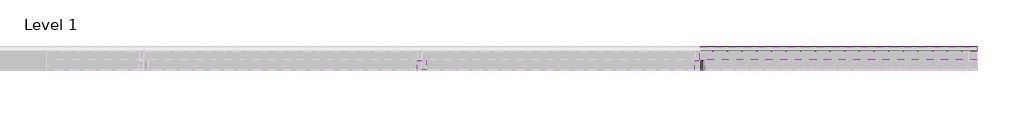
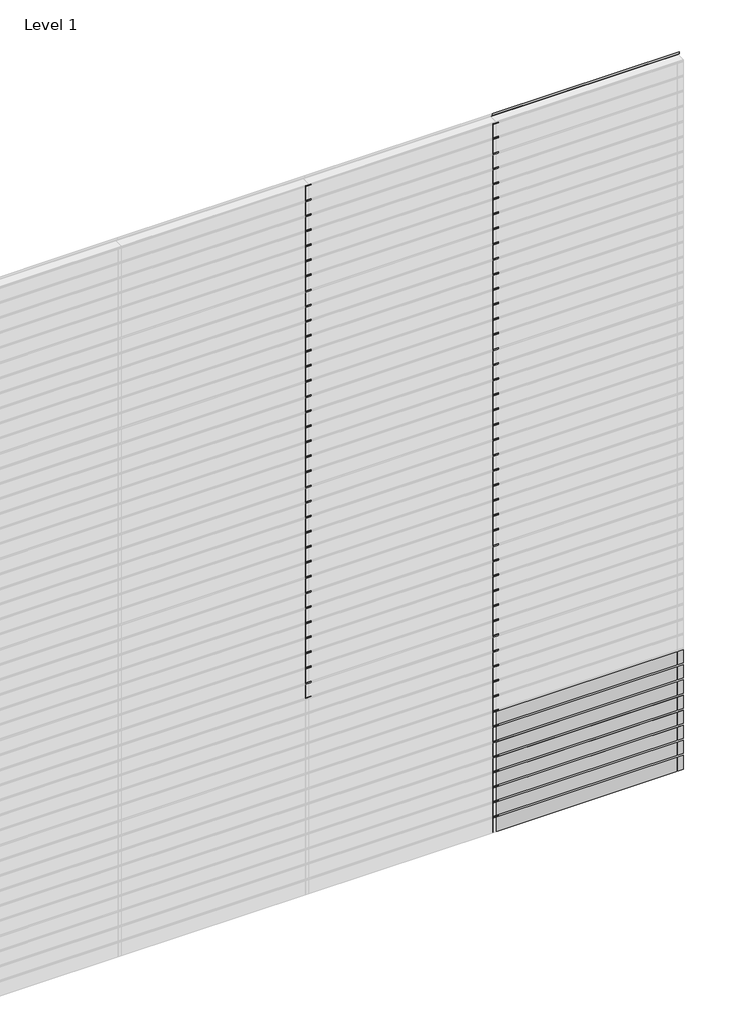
# One storey, part 5 of 6: 128 members, 8 plates.
"""IFC4 building model written with IfcOpenShell, lengths in millimetres."""

from ifc_helpers import new_model, si_unit, origin, place, context, project, spatial, transform, mapped, element, save
from components import rectangular_mullion_0894c78b, rectangular_mullion_172e3795, empty_system_panel_empty_e0da4f88, empty_system_panel_empty_a47fb649

model = new_model("IFC4")

# Units and contexts
model_context = context("Model", 3, world=origin())
ifc_project = project(units=[si_unit("LENGTHUNIT", "METRE", prefix="MILLI")], contexts=[model_context])

# Site, building, storey
site = spatial("IfcSite", under=ifc_project)
building = spatial("IfcBuilding", under=site)
storey = spatial("IfcBuildingStorey", under=building, Name="Level 1", Elevation=0.0)

# Members
placement = place(None, origin())
rectangular_mullion_shape = rectangular_mullion_0894c78b(model_context)
element("IfcMember", 1, ObjectType="Rectangular Mullion : RSen_21_CWM_blade - 100 C_gen_duco projects", at=placement, inside=storey, context=model_context, shape_type="MappedRepresentation", body=[
    mapped(rectangular_mullion_shape, transform((4500.0, 3000.0, 127.5), x_axis=(0.0, 0.0, 1.0), y_axis=(0.0, 1.0, 0.0), z_axis=(-1.0, 0.0, 0.0))),
])
element("IfcMember", 2, ObjectType="Rectangular Mullion : RSen_21_CWM_blade - 100 C_gen_duco projects", at=placement, inside=storey, context=model_context, shape_type="MappedRepresentation", body=[
    mapped(rectangular_mullion_shape, transform((4500.0, 3000.0, 255.0), x_axis=(0.0, 0.0, 1.0), y_axis=(0.0, 1.0, 0.0), z_axis=(-1.0, 0.0, 0.0))),
])
element("IfcMember", 3, ObjectType="Rectangular Mullion : RSen_21_CWM_blade - 100 C_gen_duco projects", at=placement, inside=storey, context=model_context, shape_type="MappedRepresentation", body=[
    mapped(rectangular_mullion_shape, transform((4500.0, 3000.0, 382.5), x_axis=(0.0, 0.0, 1.0), y_axis=(0.0, 1.0, 0.0), z_axis=(-1.0, 0.0, 0.0))),
])
element("IfcMember", 4, ObjectType="Rectangular Mullion : RSen_21_CWM_blade - 100 C_gen_duco projects", at=placement, inside=storey, context=model_context, shape_type="MappedRepresentation", body=[
    mapped(rectangular_mullion_shape, transform((4500.0, 3000.0, 510.0), x_axis=(0.0, 0.0, 1.0), y_axis=(0.0, 1.0, 0.0), z_axis=(-1.0, 0.0, 0.0))),
])
element("IfcMember", 5, ObjectType="Rectangular Mullion : RSen_21_CWM_blade - 100 C_gen_duco projects", at=placement, inside=storey, context=model_context, shape_type="MappedRepresentation", body=[
    mapped(rectangular_mullion_shape, transform((4500.0, 3000.0, 637.5), x_axis=(0.0, 0.0, 1.0), y_axis=(0.0, 1.0, 0.0), z_axis=(-1.0, 0.0, 0.0))),
])
element("IfcMember", 6, ObjectType="Rectangular Mullion : RSen_21_CWM_blade - 100 C_gen_duco projects", at=placement, inside=storey, context=model_context, shape_type="MappedRepresentation", body=[
    mapped(rectangular_mullion_shape, transform((4500.0, 3000.0, 765.0), x_axis=(0.0, 0.0, 1.0), y_axis=(0.0, 1.0, 0.0), z_axis=(-1.0, 0.0, 0.0))),
])
element("IfcMember", 7, ObjectType="Rectangular Mullion : RSen_21_CWM_blade - 100 C_gen_duco projects", at=placement, inside=storey, context=model_context, shape_type="MappedRepresentation", body=[
    mapped(rectangular_mullion_shape, transform((4500.0, 3000.0, 892.5), x_axis=(0.0, 0.0, 1.0), y_axis=(0.0, 1.0, 0.0), z_axis=(-1.0, 0.0, 0.0))),
])
element("IfcMember", 8, ObjectType="Rectangular Mullion : RSen_21_CWM_blade - 100 C_gen_duco projects", at=placement, inside=storey, context=model_context, shape_type="MappedRepresentation", body=[
    mapped(rectangular_mullion_shape, transform((4500.0, 3000.0, 1020.0), x_axis=(0.0, 0.0, 1.0), y_axis=(0.0, 1.0, 0.0), z_axis=(-1.0, 0.0, 0.0))),
])
element("IfcMember", 9, ObjectType="Rectangular Mullion : RSen_21_CWM_blade - 100 C_gen_duco projects", at=placement, inside=storey, context=model_context, shape_type="MappedRepresentation", body=[
    mapped(rectangular_mullion_shape, transform((4500.0, 3000.0, 1147.5), x_axis=(0.0, 0.0, 1.0), y_axis=(0.0, 1.0, 0.0), z_axis=(-1.0, 0.0, 0.0))),
])
element("IfcMember", 10, ObjectType="Rectangular Mullion : RSen_21_CWM_blade - 100 C_gen_duco projects", at=placement, inside=storey, context=model_context, shape_type="MappedRepresentation", body=[
    mapped(rectangular_mullion_shape, transform((4500.0, 3000.0, 1275.0), x_axis=(0.0, 0.0, 1.0), y_axis=(0.0, 1.0, 0.0), z_axis=(-1.0, 0.0, 0.0))),
])
element("IfcMember", 11, ObjectType="Rectangular Mullion : RSen_21_CWM_blade - 100 C_gen_duco projects", at=placement, inside=storey, context=model_context, shape_type="MappedRepresentation", body=[
    mapped(rectangular_mullion_shape, transform((4500.0, 3000.0, 1402.5), x_axis=(0.0, 0.0, 1.0), y_axis=(0.0, 1.0, 0.0), z_axis=(-1.0, 0.0, 0.0))),
])
element("IfcMember", 12, ObjectType="Rectangular Mullion : RSen_21_CWM_blade - 100 C_gen_duco projects", at=placement, inside=storey, context=model_context, shape_type="MappedRepresentation", body=[
    mapped(rectangular_mullion_shape, transform((4500.0, 3000.0, 1530.0), x_axis=(0.0, 0.0, 1.0), y_axis=(0.0, 1.0, 0.0), z_axis=(-1.0, 0.0, 0.0))),
])
element("IfcMember", 13, ObjectType="Rectangular Mullion : RSen_21_CWM_blade - 100 C_gen_duco projects", at=placement, inside=storey, context=model_context, shape_type="MappedRepresentation", body=[
    mapped(rectangular_mullion_shape, transform((4500.0, 3000.0, 1657.5), x_axis=(0.0, 0.0, 1.0), y_axis=(0.0, 1.0, 0.0), z_axis=(-1.0, 0.0, 0.0))),
])
element("IfcMember", 14, ObjectType="Rectangular Mullion : RSen_21_CWM_blade - 100 C_gen_duco projects", at=placement, inside=storey, context=model_context, shape_type="MappedRepresentation", body=[
    mapped(rectangular_mullion_shape, transform((4500.0, 3000.0, 1785.0), x_axis=(0.0, 0.0, 1.0), y_axis=(0.0, 1.0, 0.0), z_axis=(-1.0, 0.0, 0.0))),
])
element("IfcMember", 15, ObjectType="Rectangular Mullion : RSen_21_CWM_blade - 100 C_gen_duco projects", at=placement, inside=storey, context=model_context, shape_type="MappedRepresentation", body=[
    mapped(rectangular_mullion_shape, transform((4500.0, 3000.0, 1912.5), x_axis=(0.0, 0.0, 1.0), y_axis=(0.0, 1.0, 0.0), z_axis=(-1.0, 0.0, 0.0))),
])
element("IfcMember", 16, ObjectType="Rectangular Mullion : RSen_21_CWM_blade - 100 C_gen_duco projects", at=placement, inside=storey, context=model_context, shape_type="MappedRepresentation", body=[
    mapped(rectangular_mullion_shape, transform((4500.0, 3000.0, 2040.0), x_axis=(0.0, 0.0, 1.0), y_axis=(0.0, 1.0, 0.0), z_axis=(-1.0, 0.0, 0.0))),
])
element("IfcMember", 17, ObjectType="Rectangular Mullion : RSen_21_CWM_blade - 100 C_gen_duco projects", at=placement, inside=storey, context=model_context, shape_type="MappedRepresentation", body=[
    mapped(rectangular_mullion_shape, transform((4500.0, 3000.0, 2167.5), x_axis=(0.0, 0.0, 1.0), y_axis=(0.0, 1.0, 0.0), z_axis=(-1.0, 0.0, 0.0))),
])
element("IfcMember", 18, ObjectType="Rectangular Mullion : RSen_21_CWM_blade - 100 C_gen_duco projects", at=placement, inside=storey, context=model_context, shape_type="MappedRepresentation", body=[
    mapped(rectangular_mullion_shape, transform((4500.0, 3000.0, 2295.0), x_axis=(0.0, 0.0, 1.0), y_axis=(0.0, 1.0, 0.0), z_axis=(-1.0, 0.0, 0.0))),
])
element("IfcMember", 19, ObjectType="Rectangular Mullion : RSen_21_CWM_blade - 100 C_gen_duco projects", at=placement, inside=storey, context=model_context, shape_type="MappedRepresentation", body=[
    mapped(rectangular_mullion_shape, transform((4500.0, 3000.0, 2422.5), x_axis=(0.0, 0.0, 1.0), y_axis=(0.0, 1.0, 0.0), z_axis=(-1.0, 0.0, 0.0))),
])
element("IfcMember", 20, ObjectType="Rectangular Mullion : RSen_21_CWM_blade - 100 C_gen_duco projects", at=placement, inside=storey, context=model_context, shape_type="MappedRepresentation", body=[
    mapped(rectangular_mullion_shape, transform((4500.0, 3000.0, 2550.0), x_axis=(0.0, 0.0, 1.0), y_axis=(0.0, 1.0, 0.0), z_axis=(-1.0, 0.0, 0.0))),
])
element("IfcMember", 21, ObjectType="Rectangular Mullion : RSen_21_CWM_blade - 100 C_gen_duco projects", at=placement, inside=storey, context=model_context, shape_type="MappedRepresentation", body=[
    mapped(rectangular_mullion_shape, transform((4500.0, 3000.0, 2677.5), x_axis=(0.0, 0.0, 1.0), y_axis=(0.0, 1.0, 0.0), z_axis=(-1.0, 0.0, 0.0))),
])
element("IfcMember", 22, ObjectType="Rectangular Mullion : RSen_21_CWM_blade - 100 C_gen_duco projects", at=placement, inside=storey, context=model_context, shape_type="MappedRepresentation", body=[
    mapped(rectangular_mullion_shape, transform((4500.0, 3000.0, 2805.0), x_axis=(0.0, 0.0, 1.0), y_axis=(0.0, 1.0, 0.0), z_axis=(-1.0, 0.0, 0.0))),
])
element("IfcMember", 23, ObjectType="Rectangular Mullion : RSen_21_CWM_blade - 100 C_gen_duco projects", at=placement, inside=storey, context=model_context, shape_type="MappedRepresentation", body=[
    mapped(rectangular_mullion_shape, transform((4500.0, 3000.0, 2932.5), x_axis=(0.0, 0.0, 1.0), y_axis=(0.0, 1.0, 0.0), z_axis=(-1.0, 0.0, 0.0))),
])
element("IfcMember", 24, ObjectType="Rectangular Mullion : RSen_21_CWM_blade - 100 C_gen_duco projects", at=placement, inside=storey, context=model_context, shape_type="MappedRepresentation", body=[
    mapped(rectangular_mullion_shape, transform((4500.0, 3000.0, 3060.0), x_axis=(0.0, 0.0, 1.0), y_axis=(0.0, 1.0, 0.0), z_axis=(-1.0, 0.0, 0.0))),
])
element("IfcMember", 25, ObjectType="Rectangular Mullion : RSen_21_CWM_blade - 100 C_gen_duco projects", at=placement, inside=storey, context=model_context, shape_type="MappedRepresentation", body=[
    mapped(rectangular_mullion_shape, transform((4500.0, 3000.0, 3187.5), x_axis=(0.0, 0.0, 1.0), y_axis=(0.0, 1.0, 0.0), z_axis=(-1.0, 0.0, 0.0))),
])
element("IfcMember", 26, ObjectType="Rectangular Mullion : RSen_21_CWM_blade - 100 C_gen_duco projects", at=placement, inside=storey, context=model_context, shape_type="MappedRepresentation", body=[
    mapped(rectangular_mullion_shape, transform((4500.0, 3000.0, 3315.0), x_axis=(0.0, 0.0, 1.0), y_axis=(0.0, 1.0, 0.0), z_axis=(-1.0, 0.0, 0.0))),
])
element("IfcMember", 27, ObjectType="Rectangular Mullion : RSen_21_CWM_blade - 100 C_gen_duco projects", at=placement, inside=storey, context=model_context, shape_type="MappedRepresentation", body=[
    mapped(rectangular_mullion_shape, transform((4500.0, 3000.0, 3442.5), x_axis=(0.0, 0.0, 1.0), y_axis=(0.0, 1.0, 0.0), z_axis=(-1.0, 0.0, 0.0))),
])
element("IfcMember", 28, ObjectType="Rectangular Mullion : RSen_21_CWM_blade - 100 C_gen_duco projects", at=placement, inside=storey, context=model_context, shape_type="MappedRepresentation", body=[
    mapped(rectangular_mullion_shape, transform((4500.0, 3000.0, 3570.0), x_axis=(0.0, 0.0, 1.0), y_axis=(0.0, 1.0, 0.0), z_axis=(-1.0, 0.0, 0.0))),
])
element("IfcMember", 29, ObjectType="Rectangular Mullion : RSen_21_CWM_blade - 100 C_gen_duco projects", at=placement, inside=storey, context=model_context, shape_type="MappedRepresentation", body=[
    mapped(rectangular_mullion_shape, transform((4500.0, 3000.0, 3697.5), x_axis=(0.0, 0.0, 1.0), y_axis=(0.0, 1.0, 0.0), z_axis=(-1.0, 0.0, 0.0))),
])
element("IfcMember", 30, ObjectType="Rectangular Mullion : RSen_21_CWM_blade - 100 C_gen_duco projects", at=placement, inside=storey, context=model_context, shape_type="MappedRepresentation", body=[
    mapped(rectangular_mullion_shape, transform((4500.0, 3000.0, 3825.0), x_axis=(0.0, 0.0, 1.0), y_axis=(0.0, 1.0, 0.0), z_axis=(-1.0, 0.0, 0.0))),
])
element("IfcMember", 31, ObjectType="Rectangular Mullion : RSen_21_CWM_blade - 100 C_gen_duco projects", at=placement, inside=storey, context=model_context, shape_type="MappedRepresentation", body=[
    mapped(rectangular_mullion_shape, transform((4500.0, 3000.0, 3952.5), x_axis=(0.0, 0.0, 1.0), y_axis=(0.0, 1.0, 0.0), z_axis=(-1.0, 0.0, 0.0))),
])
element("IfcMember", 32, ObjectType="Rectangular Mullion : RSen_21_CWM_blade - 100 C_gen_duco projects", at=placement, inside=storey, context=model_context, shape_type="MappedRepresentation", body=[
    mapped(rectangular_mullion_shape, transform((4500.0, 3000.0, 4080.0), x_axis=(0.0, 0.0, 1.0), y_axis=(0.0, 1.0, 0.0), z_axis=(-1.0, 0.0, 0.0))),
])
element("IfcMember", 33, ObjectType="Rectangular Mullion : RSen_21_CWM_blade - 100 C_gen_duco projects", at=placement, inside=storey, context=model_context, shape_type="MappedRepresentation", body=[
    mapped(rectangular_mullion_shape, transform((4500.0, 3000.0, 4207.5), x_axis=(0.0, 0.0, 1.0), y_axis=(0.0, 1.0, 0.0), z_axis=(-1.0, 0.0, 0.0))),
])
element("IfcMember", 34, ObjectType="Rectangular Mullion : RSen_21_CWM_blade - 100 C_gen_duco projects", at=placement, inside=storey, context=model_context, shape_type="MappedRepresentation", body=[
    mapped(rectangular_mullion_shape, transform((4500.0, 3000.0, 4335.0), x_axis=(0.0, 0.0, 1.0), y_axis=(0.0, 1.0, 0.0), z_axis=(-1.0, 0.0, 0.0))),
])
element("IfcMember", 35, ObjectType="Rectangular Mullion : RSen_21_CWM_blade - 100 C_gen_duco projects", at=placement, inside=storey, context=model_context, shape_type="MappedRepresentation", body=[
    mapped(rectangular_mullion_shape, transform((4500.0, 3000.0, 4462.5), x_axis=(0.0, 0.0, 1.0), y_axis=(0.0, 1.0, 0.0), z_axis=(-1.0, 0.0, 0.0))),
])
element("IfcMember", 36, ObjectType="Rectangular Mullion : RSen_21_CWM_blade - 100 C_gen_duco projects", at=placement, inside=storey, context=model_context, shape_type="MappedRepresentation", body=[
    mapped(rectangular_mullion_shape, transform((4500.0, 3000.0, 4590.0), x_axis=(0.0, 0.0, 1.0), y_axis=(0.0, 1.0, 0.0), z_axis=(-1.0, 0.0, 0.0))),
])
element("IfcMember", 37, ObjectType="Rectangular Mullion : RSen_21_CWM_blade - 100 C_gen_duco projects", at=placement, inside=storey, context=model_context, shape_type="MappedRepresentation", body=[
    mapped(rectangular_mullion_shape, transform((4500.0, 3000.0, 4717.5), x_axis=(0.0, 0.0, 1.0), y_axis=(0.0, 1.0, 0.0), z_axis=(-1.0, 0.0, 0.0))),
])
element("IfcMember", 38, ObjectType="Rectangular Mullion : RSen_21_CWM_blade - 100 C_gen_duco projects", at=placement, inside=storey, context=model_context, shape_type="MappedRepresentation", body=[
    mapped(rectangular_mullion_shape, transform((4500.0, 3000.0, 4845.0), x_axis=(0.0, 0.0, 1.0), y_axis=(0.0, 1.0, 0.0), z_axis=(-1.0, 0.0, 0.0))),
])
element("IfcMember", 39, ObjectType="Rectangular Mullion : RSen_21_CWM_blade - 100 C_gen_duco projects", at=placement, inside=storey, context=model_context, shape_type="MappedRepresentation", body=[
    mapped(rectangular_mullion_shape, transform((4500.0, 3000.0, 4972.5), x_axis=(0.0, 0.0, 1.0), y_axis=(0.0, 1.0, 0.0), z_axis=(-1.0, 0.0, 0.0))),
])
element("IfcMember", 40, ObjectType="Rectangular Mullion : RSen_21_CWM_blade - 100 C_gen_duco projects", at=placement, inside=storey, context=model_context, shape_type="MappedRepresentation", body=[
    mapped(rectangular_mullion_shape, transform((4500.0, 3000.0, 5100.0), x_axis=(0.0, 0.0, 1.0), y_axis=(0.0, 1.0, 0.0), z_axis=(-1.0, 0.0, 0.0))),
])
element("IfcMember", 41, ObjectType="Rectangular Mullion : RSen_21_CWM_blade - 100 C_gen_duco projects", at=placement, inside=storey, context=model_context, shape_type="MappedRepresentation", body=[
    mapped(rectangular_mullion_shape, transform((4500.0, 3000.0, 5227.5), x_axis=(0.0, 0.0, 1.0), y_axis=(0.0, 1.0, 0.0), z_axis=(-1.0, 0.0, 0.0))),
])
element("IfcMember", 42, ObjectType="Rectangular Mullion : RSen_21_CWM_blade - 100 C_gen_duco projects", at=placement, inside=storey, context=model_context, shape_type="MappedRepresentation", body=[
    mapped(rectangular_mullion_shape, transform((4500.0, 3000.0, 5355.0), x_axis=(0.0, 0.0, 1.0), y_axis=(0.0, 1.0, 0.0), z_axis=(-1.0, 0.0, 0.0))),
])
element("IfcMember", 43, ObjectType="Rectangular Mullion : RSen_21_CWM_blade - 100 C_gen_duco projects", at=placement, inside=storey, context=model_context, shape_type="MappedRepresentation", body=[
    mapped(rectangular_mullion_shape, transform((4500.0, 3000.0, 5482.5), x_axis=(0.0, 0.0, 1.0), y_axis=(0.0, 1.0, 0.0), z_axis=(-1.0, 0.0, 0.0))),
])
element("IfcMember", 44, ObjectType="Rectangular Mullion : RSen_21_CWM_blade - 100 C_gen_duco projects", at=placement, inside=storey, context=model_context, shape_type="MappedRepresentation", body=[
    mapped(rectangular_mullion_shape, transform((4500.0, 3000.0, 5610.0), x_axis=(0.0, 0.0, 1.0), y_axis=(0.0, 1.0, 0.0), z_axis=(-1.0, 0.0, 0.0))),
])
element("IfcMember", 45, ObjectType="Rectangular Mullion : RSen_21_CWM_blade - 100 C_gen_duco projects", at=placement, inside=storey, context=model_context, shape_type="MappedRepresentation", body=[
    mapped(rectangular_mullion_shape, transform((4500.0, 3000.0, 5737.5), x_axis=(0.0, 0.0, 1.0), y_axis=(0.0, 1.0, 0.0), z_axis=(-1.0, 0.0, 0.0))),
])
element("IfcMember", 46, ObjectType="Rectangular Mullion : RSen_21_CWM_blade - 100 C_gen_duco projects", at=placement, inside=storey, context=model_context, shape_type="MappedRepresentation", body=[
    mapped(rectangular_mullion_shape, transform((4500.0, 3000.0, 5865.0), x_axis=(0.0, 0.0, 1.0), y_axis=(0.0, 1.0, 0.0), z_axis=(-1.0, 0.0, 0.0))),
])
element("IfcMember", 47, ObjectType="Rectangular Mullion : RSen_21_CWM_blade - 100 C_gen_duco projects", at=placement, inside=storey, context=model_context, shape_type="MappedRepresentation", body=[
    mapped(rectangular_mullion_shape, transform((4500.0, 3000.0, 5992.5), x_axis=(0.0, 0.0, 1.0), y_axis=(0.0, 1.0, 0.0), z_axis=(-1.0, 0.0, 0.0))),
])
rectangular_mullion_2_shape = rectangular_mullion_172e3795(model_context)
element("IfcMember", 48, ObjectType="Rectangular Mullion : RSen_21_CWM_support profile 50x50_gen_duco projects", at=placement, inside=storey, context=model_context, shape_type="MappedRepresentation", body=[
    mapped(rectangular_mullion_2_shape, transform((4500.0, 3000.0, 0.0), x_axis=(-1.0, 0.0, 0.0), y_axis=(0.0, 1.0, 0.0), z_axis=(0.0, 0.0, -1.0))),
])
element("IfcMember", 49, ObjectType="Rectangular Mullion : RSen_21_CWM_support profile 50x50_gen_duco projects", at=placement, inside=storey, context=model_context, shape_type="MappedRepresentation", body=[
    mapped(rectangular_mullion_2_shape, transform((4500.0, 3000.0, 127.5), x_axis=(-1.0, 0.0, 0.0), y_axis=(0.0, 1.0, 0.0), z_axis=(0.0, 0.0, -1.0))),
])
element("IfcMember", 50, ObjectType="Rectangular Mullion : RSen_21_CWM_support profile 50x50_gen_duco projects", at=placement, inside=storey, context=model_context, shape_type="MappedRepresentation", body=[
    mapped(rectangular_mullion_2_shape, transform((4500.0, 3000.0, 255.0), x_axis=(-1.0, 0.0, 0.0), y_axis=(0.0, 1.0, 0.0), z_axis=(0.0, 0.0, -1.0))),
])
element("IfcMember", 51, ObjectType="Rectangular Mullion : RSen_21_CWM_support profile 50x50_gen_duco projects", at=placement, inside=storey, context=model_context, shape_type="MappedRepresentation", body=[
    mapped(rectangular_mullion_2_shape, transform((4500.0, 3000.0, 382.5), x_axis=(-1.0, 0.0, 0.0), y_axis=(0.0, 1.0, 0.0), z_axis=(0.0, 0.0, -1.0))),
])
element("IfcMember", 52, ObjectType="Rectangular Mullion : RSen_21_CWM_support profile 50x50_gen_duco projects", at=placement, inside=storey, context=model_context, shape_type="MappedRepresentation", body=[
    mapped(rectangular_mullion_2_shape, transform((4500.0, 3000.0, 510.0), x_axis=(-1.0, 0.0, 0.0), y_axis=(0.0, 1.0, 0.0), z_axis=(0.0, 0.0, -1.0))),
])
element("IfcMember", 53, ObjectType="Rectangular Mullion : RSen_21_CWM_support profile 50x50_gen_duco projects", at=placement, inside=storey, context=model_context, shape_type="MappedRepresentation", body=[
    mapped(rectangular_mullion_2_shape, transform((4500.0, 3000.0, 637.5), x_axis=(-1.0, 0.0, 0.0), y_axis=(0.0, 1.0, 0.0), z_axis=(0.0, 0.0, -1.0))),
])
element("IfcMember", 54, ObjectType="Rectangular Mullion : RSen_21_CWM_support profile 50x50_gen_duco projects", at=placement, inside=storey, context=model_context, shape_type="MappedRepresentation", body=[
    mapped(rectangular_mullion_2_shape, transform((4500.0, 3000.0, 765.0), x_axis=(-1.0, 0.0, 0.0), y_axis=(0.0, 1.0, 0.0), z_axis=(0.0, 0.0, -1.0))),
])
element("IfcMember", 55, ObjectType="Rectangular Mullion : RSen_21_CWM_support profile 50x50_gen_duco projects", at=placement, inside=storey, context=model_context, shape_type="MappedRepresentation", body=[
    mapped(rectangular_mullion_2_shape, transform((4500.0, 3000.0, 892.5), x_axis=(-1.0, 0.0, 0.0), y_axis=(0.0, 1.0, 0.0), z_axis=(0.0, 0.0, -1.0))),
])
element("IfcMember", 56, ObjectType="Rectangular Mullion : RSen_21_CWM_support profile 50x50_gen_duco projects", at=placement, inside=storey, context=model_context, shape_type="MappedRepresentation", body=[
    mapped(rectangular_mullion_2_shape, transform((4500.0, 3000.0, 1020.0), x_axis=(-1.0, 0.0, 0.0), y_axis=(0.0, 1.0, 0.0), z_axis=(0.0, 0.0, -1.0))),
])
element("IfcMember", 57, ObjectType="Rectangular Mullion : RSen_21_CWM_support profile 50x50_gen_duco projects", at=placement, inside=storey, context=model_context, shape_type="MappedRepresentation", body=[
    mapped(rectangular_mullion_2_shape, transform((4500.0, 3000.0, 1147.5), x_axis=(-1.0, 0.0, 0.0), y_axis=(0.0, 1.0, 0.0), z_axis=(0.0, 0.0, -1.0))),
])
element("IfcMember", 58, ObjectType="Rectangular Mullion : RSen_21_CWM_support profile 50x50_gen_duco projects", at=placement, inside=storey, context=model_context, shape_type="MappedRepresentation", body=[
    mapped(rectangular_mullion_2_shape, transform((4500.0, 3000.0, 1275.0), x_axis=(-1.0, 0.0, 0.0), y_axis=(0.0, 1.0, 0.0), z_axis=(0.0, 0.0, -1.0))),
])
element("IfcMember", 59, ObjectType="Rectangular Mullion : RSen_21_CWM_support profile 50x50_gen_duco projects", at=placement, inside=storey, context=model_context, shape_type="MappedRepresentation", body=[
    mapped(rectangular_mullion_2_shape, transform((4500.0, 3000.0, 1402.5), x_axis=(-1.0, 0.0, 0.0), y_axis=(0.0, 1.0, 0.0), z_axis=(0.0, 0.0, -1.0))),
])
element("IfcMember", 60, ObjectType="Rectangular Mullion : RSen_21_CWM_support profile 50x50_gen_duco projects", at=placement, inside=storey, context=model_context, shape_type="MappedRepresentation", body=[
    mapped(rectangular_mullion_2_shape, transform((4500.0, 3000.0, 1530.0), x_axis=(-1.0, 0.0, 0.0), y_axis=(0.0, 1.0, 0.0), z_axis=(0.0, 0.0, -1.0))),
])
element("IfcMember", 61, ObjectType="Rectangular Mullion : RSen_21_CWM_support profile 50x50_gen_duco projects", at=placement, inside=storey, context=model_context, shape_type="MappedRepresentation", body=[
    mapped(rectangular_mullion_2_shape, transform((4500.0, 3000.0, 1657.5), x_axis=(-1.0, 0.0, 0.0), y_axis=(0.0, 1.0, 0.0), z_axis=(0.0, 0.0, -1.0))),
])
element("IfcMember", 62, ObjectType="Rectangular Mullion : RSen_21_CWM_support profile 50x50_gen_duco projects", at=placement, inside=storey, context=model_context, shape_type="MappedRepresentation", body=[
    mapped(rectangular_mullion_2_shape, transform((3000.0, 3000.0, 1657.5), x_axis=(-1.0, 0.0, 0.0), y_axis=(0.0, 1.0, 0.0), z_axis=(0.0, 0.0, -1.0))),
])
element("IfcMember", 63, ObjectType="Rectangular Mullion : RSen_21_CWM_support profile 50x50_gen_duco projects", at=placement, inside=storey, context=model_context, shape_type="MappedRepresentation", body=[
    mapped(rectangular_mullion_2_shape, transform((4500.0, 3000.0, 1785.0), x_axis=(-1.0, 0.0, 0.0), y_axis=(0.0, 1.0, 0.0), z_axis=(0.0, 0.0, -1.0))),
])
element("IfcMember", 64, ObjectType="Rectangular Mullion : RSen_21_CWM_support profile 50x50_gen_duco projects", at=placement, inside=storey, context=model_context, shape_type="MappedRepresentation", body=[
    mapped(rectangular_mullion_2_shape, transform((3000.0, 3000.0, 1785.0), x_axis=(-1.0, 0.0, 0.0), y_axis=(0.0, 1.0, 0.0), z_axis=(0.0, 0.0, -1.0))),
])
element("IfcMember", 65, ObjectType="Rectangular Mullion : RSen_21_CWM_support profile 50x50_gen_duco projects", at=placement, inside=storey, context=model_context, shape_type="MappedRepresentation", body=[
    mapped(rectangular_mullion_2_shape, transform((4500.0, 3000.0, 1912.5), x_axis=(-1.0, 0.0, 0.0), y_axis=(0.0, 1.0, 0.0), z_axis=(0.0, 0.0, -1.0))),
])
element("IfcMember", 66, ObjectType="Rectangular Mullion : RSen_21_CWM_support profile 50x50_gen_duco projects", at=placement, inside=storey, context=model_context, shape_type="MappedRepresentation", body=[
    mapped(rectangular_mullion_2_shape, transform((3000.0, 3000.0, 1912.5), x_axis=(-1.0, 0.0, 0.0), y_axis=(0.0, 1.0, 0.0), z_axis=(0.0, 0.0, -1.0))),
])
element("IfcMember", 67, ObjectType="Rectangular Mullion : RSen_21_CWM_support profile 50x50_gen_duco projects", at=placement, inside=storey, context=model_context, shape_type="MappedRepresentation", body=[
    mapped(rectangular_mullion_2_shape, transform((4500.0, 3000.0, 2040.0), x_axis=(-1.0, 0.0, 0.0), y_axis=(0.0, 1.0, 0.0), z_axis=(0.0, 0.0, -1.0))),
])
element("IfcMember", 68, ObjectType="Rectangular Mullion : RSen_21_CWM_support profile 50x50_gen_duco projects", at=placement, inside=storey, context=model_context, shape_type="MappedRepresentation", body=[
    mapped(rectangular_mullion_2_shape, transform((3000.0, 3000.0, 2040.0), x_axis=(-1.0, 0.0, 0.0), y_axis=(0.0, 1.0, 0.0), z_axis=(0.0, 0.0, -1.0))),
])
element("IfcMember", 69, ObjectType="Rectangular Mullion : RSen_21_CWM_support profile 50x50_gen_duco projects", at=placement, inside=storey, context=model_context, shape_type="MappedRepresentation", body=[
    mapped(rectangular_mullion_2_shape, transform((4500.0, 3000.0, 2167.5), x_axis=(-1.0, 0.0, 0.0), y_axis=(0.0, 1.0, 0.0), z_axis=(0.0, 0.0, -1.0))),
])
element("IfcMember", 70, ObjectType="Rectangular Mullion : RSen_21_CWM_support profile 50x50_gen_duco projects", at=placement, inside=storey, context=model_context, shape_type="MappedRepresentation", body=[
    mapped(rectangular_mullion_2_shape, transform((3000.0, 3000.0, 2167.5), x_axis=(-1.0, 0.0, 0.0), y_axis=(0.0, 1.0, 0.0), z_axis=(0.0, 0.0, -1.0))),
])
element("IfcMember", 71, ObjectType="Rectangular Mullion : RSen_21_CWM_support profile 50x50_gen_duco projects", at=placement, inside=storey, context=model_context, shape_type="MappedRepresentation", body=[
    mapped(rectangular_mullion_2_shape, transform((4500.0, 3000.0, 2295.0), x_axis=(-1.0, 0.0, 0.0), y_axis=(0.0, 1.0, 0.0), z_axis=(0.0, 0.0, -1.0))),
])
element("IfcMember", 72, ObjectType="Rectangular Mullion : RSen_21_CWM_support profile 50x50_gen_duco projects", at=placement, inside=storey, context=model_context, shape_type="MappedRepresentation", body=[
    mapped(rectangular_mullion_2_shape, transform((3000.0, 3000.0, 2295.0), x_axis=(-1.0, 0.0, 0.0), y_axis=(0.0, 1.0, 0.0), z_axis=(0.0, 0.0, -1.0))),
])
element("IfcMember", 73, ObjectType="Rectangular Mullion : RSen_21_CWM_support profile 50x50_gen_duco projects", at=placement, inside=storey, context=model_context, shape_type="MappedRepresentation", body=[
    mapped(rectangular_mullion_2_shape, transform((4500.0, 3000.0, 2422.5), x_axis=(-1.0, 0.0, 0.0), y_axis=(0.0, 1.0, 0.0), z_axis=(0.0, 0.0, -1.0))),
])
element("IfcMember", 74, ObjectType="Rectangular Mullion : RSen_21_CWM_support profile 50x50_gen_duco projects", at=placement, inside=storey, context=model_context, shape_type="MappedRepresentation", body=[
    mapped(rectangular_mullion_2_shape, transform((3000.0, 3000.0, 2422.5), x_axis=(-1.0, 0.0, 0.0), y_axis=(0.0, 1.0, 0.0), z_axis=(0.0, 0.0, -1.0))),
])
element("IfcMember", 75, ObjectType="Rectangular Mullion : RSen_21_CWM_support profile 50x50_gen_duco projects", at=placement, inside=storey, context=model_context, shape_type="MappedRepresentation", body=[
    mapped(rectangular_mullion_2_shape, transform((4500.0, 3000.0, 2550.0), x_axis=(-1.0, 0.0, 0.0), y_axis=(0.0, 1.0, 0.0), z_axis=(0.0, 0.0, -1.0))),
])
element("IfcMember", 76, ObjectType="Rectangular Mullion : RSen_21_CWM_support profile 50x50_gen_duco projects", at=placement, inside=storey, context=model_context, shape_type="MappedRepresentation", body=[
    mapped(rectangular_mullion_2_shape, transform((3000.0, 3000.0, 2550.0), x_axis=(-1.0, 0.0, 0.0), y_axis=(0.0, 1.0, 0.0), z_axis=(0.0, 0.0, -1.0))),
])
element("IfcMember", 77, ObjectType="Rectangular Mullion : RSen_21_CWM_support profile 50x50_gen_duco projects", at=placement, inside=storey, context=model_context, shape_type="MappedRepresentation", body=[
    mapped(rectangular_mullion_2_shape, transform((4500.0, 3000.0, 2677.5), x_axis=(-1.0, 0.0, 0.0), y_axis=(0.0, 1.0, 0.0), z_axis=(0.0, 0.0, -1.0))),
])
element("IfcMember", 78, ObjectType="Rectangular Mullion : RSen_21_CWM_support profile 50x50_gen_duco projects", at=placement, inside=storey, context=model_context, shape_type="MappedRepresentation", body=[
    mapped(rectangular_mullion_2_shape, transform((3000.0, 3000.0, 2677.5), x_axis=(-1.0, 0.0, 0.0), y_axis=(0.0, 1.0, 0.0), z_axis=(0.0, 0.0, -1.0))),
])
element("IfcMember", 79, ObjectType="Rectangular Mullion : RSen_21_CWM_support profile 50x50_gen_duco projects", at=placement, inside=storey, context=model_context, shape_type="MappedRepresentation", body=[
    mapped(rectangular_mullion_2_shape, transform((4500.0, 3000.0, 2805.0), x_axis=(-1.0, 0.0, 0.0), y_axis=(0.0, 1.0, 0.0), z_axis=(0.0, 0.0, -1.0))),
])
element("IfcMember", 80, ObjectType="Rectangular Mullion : RSen_21_CWM_support profile 50x50_gen_duco projects", at=placement, inside=storey, context=model_context, shape_type="MappedRepresentation", body=[
    mapped(rectangular_mullion_2_shape, transform((3000.0, 3000.0, 2805.0), x_axis=(-1.0, 0.0, 0.0), y_axis=(0.0, 1.0, 0.0), z_axis=(0.0, 0.0, -1.0))),
])
element("IfcMember", 81, ObjectType="Rectangular Mullion : RSen_21_CWM_support profile 50x50_gen_duco projects", at=placement, inside=storey, context=model_context, shape_type="MappedRepresentation", body=[
    mapped(rectangular_mullion_2_shape, transform((4500.0, 3000.0, 2932.5), x_axis=(-1.0, 0.0, 0.0), y_axis=(0.0, 1.0, 0.0), z_axis=(0.0, 0.0, -1.0))),
])
element("IfcMember", 82, ObjectType="Rectangular Mullion : RSen_21_CWM_support profile 50x50_gen_duco projects", at=placement, inside=storey, context=model_context, shape_type="MappedRepresentation", body=[
    mapped(rectangular_mullion_2_shape, transform((3000.0, 3000.0, 2932.5), x_axis=(-1.0, 0.0, 0.0), y_axis=(0.0, 1.0, 0.0), z_axis=(0.0, 0.0, -1.0))),
])
element("IfcMember", 83, ObjectType="Rectangular Mullion : RSen_21_CWM_support profile 50x50_gen_duco projects", at=placement, inside=storey, context=model_context, shape_type="MappedRepresentation", body=[
    mapped(rectangular_mullion_2_shape, transform((4500.0, 3000.0, 3060.0), x_axis=(-1.0, 0.0, 0.0), y_axis=(0.0, 1.0, 0.0), z_axis=(0.0, 0.0, -1.0))),
])
element("IfcMember", 84, ObjectType="Rectangular Mullion : RSen_21_CWM_support profile 50x50_gen_duco projects", at=placement, inside=storey, context=model_context, shape_type="MappedRepresentation", body=[
    mapped(rectangular_mullion_2_shape, transform((3000.0, 3000.0, 3060.0), x_axis=(-1.0, 0.0, 0.0), y_axis=(0.0, 1.0, 0.0), z_axis=(0.0, 0.0, -1.0))),
])
element("IfcMember", 85, ObjectType="Rectangular Mullion : RSen_21_CWM_support profile 50x50_gen_duco projects", at=placement, inside=storey, context=model_context, shape_type="MappedRepresentation", body=[
    mapped(rectangular_mullion_2_shape, transform((4500.0, 3000.0, 3187.5), x_axis=(-1.0, 0.0, 0.0), y_axis=(0.0, 1.0, 0.0), z_axis=(0.0, 0.0, -1.0))),
])
element("IfcMember", 86, ObjectType="Rectangular Mullion : RSen_21_CWM_support profile 50x50_gen_duco projects", at=placement, inside=storey, context=model_context, shape_type="MappedRepresentation", body=[
    mapped(rectangular_mullion_2_shape, transform((3000.0, 3000.0, 3187.5), x_axis=(-1.0, 0.0, 0.0), y_axis=(0.0, 1.0, 0.0), z_axis=(0.0, 0.0, -1.0))),
])
element("IfcMember", 87, ObjectType="Rectangular Mullion : RSen_21_CWM_support profile 50x50_gen_duco projects", at=placement, inside=storey, context=model_context, shape_type="MappedRepresentation", body=[
    mapped(rectangular_mullion_2_shape, transform((4500.0, 3000.0, 3315.0), x_axis=(-1.0, 0.0, 0.0), y_axis=(0.0, 1.0, 0.0), z_axis=(0.0, 0.0, -1.0))),
])
element("IfcMember", 88, ObjectType="Rectangular Mullion : RSen_21_CWM_support profile 50x50_gen_duco projects", at=placement, inside=storey, context=model_context, shape_type="MappedRepresentation", body=[
    mapped(rectangular_mullion_2_shape, transform((3000.0, 3000.0, 3315.0), x_axis=(-1.0, 0.0, 0.0), y_axis=(0.0, 1.0, 0.0), z_axis=(0.0, 0.0, -1.0))),
])
element("IfcMember", 89, ObjectType="Rectangular Mullion : RSen_21_CWM_support profile 50x50_gen_duco projects", at=placement, inside=storey, context=model_context, shape_type="MappedRepresentation", body=[
    mapped(rectangular_mullion_2_shape, transform((4500.0, 3000.0, 3442.5), x_axis=(-1.0, 0.0, 0.0), y_axis=(0.0, 1.0, 0.0), z_axis=(0.0, 0.0, -1.0))),
])
element("IfcMember", 90, ObjectType="Rectangular Mullion : RSen_21_CWM_support profile 50x50_gen_duco projects", at=placement, inside=storey, context=model_context, shape_type="MappedRepresentation", body=[
    mapped(rectangular_mullion_2_shape, transform((3000.0, 3000.0, 3442.5), x_axis=(-1.0, 0.0, 0.0), y_axis=(0.0, 1.0, 0.0), z_axis=(0.0, 0.0, -1.0))),
])
element("IfcMember", 91, ObjectType="Rectangular Mullion : RSen_21_CWM_support profile 50x50_gen_duco projects", at=placement, inside=storey, context=model_context, shape_type="MappedRepresentation", body=[
    mapped(rectangular_mullion_2_shape, transform((4500.0, 3000.0, 3570.0), x_axis=(-1.0, 0.0, 0.0), y_axis=(0.0, 1.0, 0.0), z_axis=(0.0, 0.0, -1.0))),
])
element("IfcMember", 92, ObjectType="Rectangular Mullion : RSen_21_CWM_support profile 50x50_gen_duco projects", at=placement, inside=storey, context=model_context, shape_type="MappedRepresentation", body=[
    mapped(rectangular_mullion_2_shape, transform((3000.0, 3000.0, 3570.0), x_axis=(-1.0, 0.0, 0.0), y_axis=(0.0, 1.0, 0.0), z_axis=(0.0, 0.0, -1.0))),
])
element("IfcMember", 93, ObjectType="Rectangular Mullion : RSen_21_CWM_support profile 50x50_gen_duco projects", at=placement, inside=storey, context=model_context, shape_type="MappedRepresentation", body=[
    mapped(rectangular_mullion_2_shape, transform((4500.0, 3000.0, 3697.5), x_axis=(-1.0, 0.0, 0.0), y_axis=(0.0, 1.0, 0.0), z_axis=(0.0, 0.0, -1.0))),
])
element("IfcMember", 94, ObjectType="Rectangular Mullion : RSen_21_CWM_support profile 50x50_gen_duco projects", at=placement, inside=storey, context=model_context, shape_type="MappedRepresentation", body=[
    mapped(rectangular_mullion_2_shape, transform((3000.0, 3000.0, 3697.5), x_axis=(-1.0, 0.0, 0.0), y_axis=(0.0, 1.0, 0.0), z_axis=(0.0, 0.0, -1.0))),
])
element("IfcMember", 95, ObjectType="Rectangular Mullion : RSen_21_CWM_support profile 50x50_gen_duco projects", at=placement, inside=storey, context=model_context, shape_type="MappedRepresentation", body=[
    mapped(rectangular_mullion_2_shape, transform((4500.0, 3000.0, 3825.0), x_axis=(-1.0, 0.0, 0.0), y_axis=(0.0, 1.0, 0.0), z_axis=(0.0, 0.0, -1.0))),
])
element("IfcMember", 96, ObjectType="Rectangular Mullion : RSen_21_CWM_support profile 50x50_gen_duco projects", at=placement, inside=storey, context=model_context, shape_type="MappedRepresentation", body=[
    mapped(rectangular_mullion_2_shape, transform((3000.0, 3000.0, 3825.0), x_axis=(-1.0, 0.0, 0.0), y_axis=(0.0, 1.0, 0.0), z_axis=(0.0, 0.0, -1.0))),
])
element("IfcMember", 97, ObjectType="Rectangular Mullion : RSen_21_CWM_support profile 50x50_gen_duco projects", at=placement, inside=storey, context=model_context, shape_type="MappedRepresentation", body=[
    mapped(rectangular_mullion_2_shape, transform((4500.0, 3000.0, 3952.5), x_axis=(-1.0, 0.0, 0.0), y_axis=(0.0, 1.0, 0.0), z_axis=(0.0, 0.0, -1.0))),
])
element("IfcMember", 98, ObjectType="Rectangular Mullion : RSen_21_CWM_support profile 50x50_gen_duco projects", at=placement, inside=storey, context=model_context, shape_type="MappedRepresentation", body=[
    mapped(rectangular_mullion_2_shape, transform((3000.0, 3000.0, 3952.5), x_axis=(-1.0, 0.0, 0.0), y_axis=(0.0, 1.0, 0.0), z_axis=(0.0, 0.0, -1.0))),
])
element("IfcMember", 99, ObjectType="Rectangular Mullion : RSen_21_CWM_support profile 50x50_gen_duco projects", at=placement, inside=storey, context=model_context, shape_type="MappedRepresentation", body=[
    mapped(rectangular_mullion_2_shape, transform((4500.0, 3000.0, 4080.0), x_axis=(-1.0, 0.0, 0.0), y_axis=(0.0, 1.0, 0.0), z_axis=(0.0, 0.0, -1.0))),
])
element("IfcMember", 100, ObjectType="Rectangular Mullion : RSen_21_CWM_support profile 50x50_gen_duco projects", at=placement, inside=storey, context=model_context, shape_type="MappedRepresentation", body=[
    mapped(rectangular_mullion_2_shape, transform((3000.0, 3000.0, 4080.0), x_axis=(-1.0, 0.0, 0.0), y_axis=(0.0, 1.0, 0.0), z_axis=(0.0, 0.0, -1.0))),
])
element("IfcMember", 101, ObjectType="Rectangular Mullion : RSen_21_CWM_support profile 50x50_gen_duco projects", at=placement, inside=storey, context=model_context, shape_type="MappedRepresentation", body=[
    mapped(rectangular_mullion_2_shape, transform((4500.0, 3000.0, 4207.5), x_axis=(-1.0, 0.0, 0.0), y_axis=(0.0, 1.0, 0.0), z_axis=(0.0, 0.0, -1.0))),
])
element("IfcMember", 102, ObjectType="Rectangular Mullion : RSen_21_CWM_support profile 50x50_gen_duco projects", at=placement, inside=storey, context=model_context, shape_type="MappedRepresentation", body=[
    mapped(rectangular_mullion_2_shape, transform((3000.0, 3000.0, 4207.5), x_axis=(-1.0, 0.0, 0.0), y_axis=(0.0, 1.0, 0.0), z_axis=(0.0, 0.0, -1.0))),
])
element("IfcMember", 103, ObjectType="Rectangular Mullion : RSen_21_CWM_support profile 50x50_gen_duco projects", at=placement, inside=storey, context=model_context, shape_type="MappedRepresentation", body=[
    mapped(rectangular_mullion_2_shape, transform((4500.0, 3000.0, 4335.0), x_axis=(-1.0, 0.0, 0.0), y_axis=(0.0, 1.0, 0.0), z_axis=(0.0, 0.0, -1.0))),
])
element("IfcMember", 104, ObjectType="Rectangular Mullion : RSen_21_CWM_support profile 50x50_gen_duco projects", at=placement, inside=storey, context=model_context, shape_type="MappedRepresentation", body=[
    mapped(rectangular_mullion_2_shape, transform((3000.0, 3000.0, 4335.0), x_axis=(-1.0, 0.0, 0.0), y_axis=(0.0, 1.0, 0.0), z_axis=(0.0, 0.0, -1.0))),
])
element("IfcMember", 105, ObjectType="Rectangular Mullion : RSen_21_CWM_support profile 50x50_gen_duco projects", at=placement, inside=storey, context=model_context, shape_type="MappedRepresentation", body=[
    mapped(rectangular_mullion_2_shape, transform((4500.0, 3000.0, 4462.5), x_axis=(-1.0, 0.0, 0.0), y_axis=(0.0, 1.0, 0.0), z_axis=(0.0, 0.0, -1.0))),
])
element("IfcMember", 106, ObjectType="Rectangular Mullion : RSen_21_CWM_support profile 50x50_gen_duco projects", at=placement, inside=storey, context=model_context, shape_type="MappedRepresentation", body=[
    mapped(rectangular_mullion_2_shape, transform((3000.0, 3000.0, 4462.5), x_axis=(-1.0, 0.0, 0.0), y_axis=(0.0, 1.0, 0.0), z_axis=(0.0, 0.0, -1.0))),
])
element("IfcMember", 107, ObjectType="Rectangular Mullion : RSen_21_CWM_support profile 50x50_gen_duco projects", at=placement, inside=storey, context=model_context, shape_type="MappedRepresentation", body=[
    mapped(rectangular_mullion_2_shape, transform((4500.0, 3000.0, 4590.0), x_axis=(-1.0, 0.0, 0.0), y_axis=(0.0, 1.0, 0.0), z_axis=(0.0, 0.0, -1.0))),
])
element("IfcMember", 108, ObjectType="Rectangular Mullion : RSen_21_CWM_support profile 50x50_gen_duco projects", at=placement, inside=storey, context=model_context, shape_type="MappedRepresentation", body=[
    mapped(rectangular_mullion_2_shape, transform((3000.0, 3000.0, 4590.0), x_axis=(-1.0, 0.0, 0.0), y_axis=(0.0, 1.0, 0.0), z_axis=(0.0, 0.0, -1.0))),
])
element("IfcMember", 109, ObjectType="Rectangular Mullion : RSen_21_CWM_support profile 50x50_gen_duco projects", at=placement, inside=storey, context=model_context, shape_type="MappedRepresentation", body=[
    mapped(rectangular_mullion_2_shape, transform((4500.0, 3000.0, 4717.5), x_axis=(-1.0, 0.0, 0.0), y_axis=(0.0, 1.0, 0.0), z_axis=(0.0, 0.0, -1.0))),
])
element("IfcMember", 110, ObjectType="Rectangular Mullion : RSen_21_CWM_support profile 50x50_gen_duco projects", at=placement, inside=storey, context=model_context, shape_type="MappedRepresentation", body=[
    mapped(rectangular_mullion_2_shape, transform((3000.0, 3000.0, 4717.5), x_axis=(-1.0, 0.0, 0.0), y_axis=(0.0, 1.0, 0.0), z_axis=(0.0, 0.0, -1.0))),
])
element("IfcMember", 111, ObjectType="Rectangular Mullion : RSen_21_CWM_support profile 50x50_gen_duco projects", at=placement, inside=storey, context=model_context, shape_type="MappedRepresentation", body=[
    mapped(rectangular_mullion_2_shape, transform((4500.0, 3000.0, 4845.0), x_axis=(-1.0, 0.0, 0.0), y_axis=(0.0, 1.0, 0.0), z_axis=(0.0, 0.0, -1.0))),
])
element("IfcMember", 112, ObjectType="Rectangular Mullion : RSen_21_CWM_support profile 50x50_gen_duco projects", at=placement, inside=storey, context=model_context, shape_type="MappedRepresentation", body=[
    mapped(rectangular_mullion_2_shape, transform((3000.0, 3000.0, 4845.0), x_axis=(-1.0, 0.0, 0.0), y_axis=(0.0, 1.0, 0.0), z_axis=(0.0, 0.0, -1.0))),
])
element("IfcMember", 113, ObjectType="Rectangular Mullion : RSen_21_CWM_support profile 50x50_gen_duco projects", at=placement, inside=storey, context=model_context, shape_type="MappedRepresentation", body=[
    mapped(rectangular_mullion_2_shape, transform((4500.0, 3000.0, 4972.5), x_axis=(-1.0, 0.0, 0.0), y_axis=(0.0, 1.0, 0.0), z_axis=(0.0, 0.0, -1.0))),
])
element("IfcMember", 114, ObjectType="Rectangular Mullion : RSen_21_CWM_support profile 50x50_gen_duco projects", at=placement, inside=storey, context=model_context, shape_type="MappedRepresentation", body=[
    mapped(rectangular_mullion_2_shape, transform((3000.0, 3000.0, 4972.5), x_axis=(-1.0, 0.0, 0.0), y_axis=(0.0, 1.0, 0.0), z_axis=(0.0, 0.0, -1.0))),
])
element("IfcMember", 115, ObjectType="Rectangular Mullion : RSen_21_CWM_support profile 50x50_gen_duco projects", at=placement, inside=storey, context=model_context, shape_type="MappedRepresentation", body=[
    mapped(rectangular_mullion_2_shape, transform((4500.0, 3000.0, 5100.0), x_axis=(-1.0, 0.0, 0.0), y_axis=(0.0, 1.0, 0.0), z_axis=(0.0, 0.0, -1.0))),
])
element("IfcMember", 116, ObjectType="Rectangular Mullion : RSen_21_CWM_support profile 50x50_gen_duco projects", at=placement, inside=storey, context=model_context, shape_type="MappedRepresentation", body=[
    mapped(rectangular_mullion_2_shape, transform((3000.0, 3000.0, 5100.0), x_axis=(-1.0, 0.0, 0.0), y_axis=(0.0, 1.0, 0.0), z_axis=(0.0, 0.0, -1.0))),
])
element("IfcMember", 117, ObjectType="Rectangular Mullion : RSen_21_CWM_support profile 50x50_gen_duco projects", at=placement, inside=storey, context=model_context, shape_type="MappedRepresentation", body=[
    mapped(rectangular_mullion_2_shape, transform((4500.0, 3000.0, 5227.5), x_axis=(-1.0, 0.0, 0.0), y_axis=(0.0, 1.0, 0.0), z_axis=(0.0, 0.0, -1.0))),
])
element("IfcMember", 118, ObjectType="Rectangular Mullion : RSen_21_CWM_support profile 50x50_gen_duco projects", at=placement, inside=storey, context=model_context, shape_type="MappedRepresentation", body=[
    mapped(rectangular_mullion_2_shape, transform((3000.0, 3000.0, 5227.5), x_axis=(-1.0, 0.0, 0.0), y_axis=(0.0, 1.0, 0.0), z_axis=(0.0, 0.0, -1.0))),
])
element("IfcMember", 119, ObjectType="Rectangular Mullion : RSen_21_CWM_support profile 50x50_gen_duco projects", at=placement, inside=storey, context=model_context, shape_type="MappedRepresentation", body=[
    mapped(rectangular_mullion_2_shape, transform((4500.0, 3000.0, 5355.0), x_axis=(-1.0, 0.0, 0.0), y_axis=(0.0, 1.0, 0.0), z_axis=(0.0, 0.0, -1.0))),
])
element("IfcMember", 120, ObjectType="Rectangular Mullion : RSen_21_CWM_support profile 50x50_gen_duco projects", at=placement, inside=storey, context=model_context, shape_type="MappedRepresentation", body=[
    mapped(rectangular_mullion_2_shape, transform((3000.0, 3000.0, 5355.0), x_axis=(-1.0, 0.0, 0.0), y_axis=(0.0, 1.0, 0.0), z_axis=(0.0, 0.0, -1.0))),
])
element("IfcMember", 121, ObjectType="Rectangular Mullion : RSen_21_CWM_support profile 50x50_gen_duco projects", at=placement, inside=storey, context=model_context, shape_type="MappedRepresentation", body=[
    mapped(rectangular_mullion_2_shape, transform((4500.0, 3000.0, 5482.5), x_axis=(-1.0, 0.0, 0.0), y_axis=(0.0, 1.0, 0.0), z_axis=(0.0, 0.0, -1.0))),
])
element("IfcMember", 122, ObjectType="Rectangular Mullion : RSen_21_CWM_support profile 50x50_gen_duco projects", at=placement, inside=storey, context=model_context, shape_type="MappedRepresentation", body=[
    mapped(rectangular_mullion_2_shape, transform((3000.0, 3000.0, 5482.5), x_axis=(-1.0, 0.0, 0.0), y_axis=(0.0, 1.0, 0.0), z_axis=(0.0, 0.0, -1.0))),
])
element("IfcMember", 123, ObjectType="Rectangular Mullion : RSen_21_CWM_support profile 50x50_gen_duco projects", at=placement, inside=storey, context=model_context, shape_type="MappedRepresentation", body=[
    mapped(rectangular_mullion_2_shape, transform((4500.0, 3000.0, 5610.0), x_axis=(-1.0, 0.0, 0.0), y_axis=(0.0, 1.0, 0.0), z_axis=(0.0, 0.0, -1.0))),
])
element("IfcMember", 124, ObjectType="Rectangular Mullion : RSen_21_CWM_support profile 50x50_gen_duco projects", at=placement, inside=storey, context=model_context, shape_type="MappedRepresentation", body=[
    mapped(rectangular_mullion_2_shape, transform((3000.0, 3000.0, 5610.0), x_axis=(-1.0, 0.0, 0.0), y_axis=(0.0, 1.0, 0.0), z_axis=(0.0, 0.0, -1.0))),
])
element("IfcMember", 125, ObjectType="Rectangular Mullion : RSen_21_CWM_support profile 50x50_gen_duco projects", at=placement, inside=storey, context=model_context, shape_type="MappedRepresentation", body=[
    mapped(rectangular_mullion_2_shape, transform((4500.0, 3000.0, 5737.5), x_axis=(-1.0, 0.0, 0.0), y_axis=(0.0, 1.0, 0.0), z_axis=(0.0, 0.0, -1.0))),
])
element("IfcMember", 126, ObjectType="Rectangular Mullion : RSen_21_CWM_support profile 50x50_gen_duco projects", at=placement, inside=storey, context=model_context, shape_type="MappedRepresentation", body=[
    mapped(rectangular_mullion_2_shape, transform((3000.0, 3000.0, 5737.5), x_axis=(-1.0, 0.0, 0.0), y_axis=(0.0, 1.0, 0.0), z_axis=(0.0, 0.0, -1.0))),
])
element("IfcMember", 127, ObjectType="Rectangular Mullion : RSen_21_CWM_support profile 50x50_gen_duco projects", at=placement, inside=storey, context=model_context, shape_type="MappedRepresentation", body=[
    mapped(rectangular_mullion_2_shape, transform((4500.0, 3000.0, 5865.0), x_axis=(-1.0, 0.0, 0.0), y_axis=(0.0, 1.0, 0.0), z_axis=(0.0, 0.0, -1.0))),
])
element("IfcMember", 128, ObjectType="Rectangular Mullion : RSen_21_CWM_support profile 50x50_gen_duco projects", at=placement, inside=storey, context=model_context, shape_type="MappedRepresentation", body=[
    mapped(rectangular_mullion_2_shape, transform((3000.0, 3000.0, 5865.0), x_axis=(-1.0, 0.0, 0.0), y_axis=(0.0, 1.0, 0.0), z_axis=(0.0, 0.0, -1.0))),
])

# Plates
empty_system_panel_empty_shape = empty_system_panel_empty_e0da4f88(model_context)
element("IfcPlate", 129, ObjectType="Empty System Panel : Empty", at=placement, inside=storey, context=model_context, shape_type="MappedRepresentation", body=[
    mapped(empty_system_panel_empty_shape, transform((5250.0, 3000.0, 0.0), x_axis=(-1.0, 0.0, 0.0), y_axis=(0.0, -1.0, 0.0), z_axis=(0.0, 0.0, 1.0))),
])
empty_system_panel_empty_2_shape = empty_system_panel_empty_a47fb649(model_context)
element("IfcPlate", 130, ObjectType="Empty System Panel : Empty", at=placement, inside=storey, context=model_context, shape_type="MappedRepresentation", body=[
    mapped(empty_system_panel_empty_2_shape, transform((5250.0, 3000.0, 135.9852814), x_axis=(-1.0, 0.0, 0.0), y_axis=(0.0, -1.0, 0.0), z_axis=(0.0, 0.0, 1.0))),
])
element("IfcPlate", 131, ObjectType="Empty System Panel : Empty", at=placement, inside=storey, context=model_context, shape_type="MappedRepresentation", body=[
    mapped(empty_system_panel_empty_2_shape, transform((5250.0, 3000.0, 263.4852814), x_axis=(-1.0, 0.0, 0.0), y_axis=(0.0, -1.0, 0.0), z_axis=(0.0, 0.0, 1.0))),
])
element("IfcPlate", 132, ObjectType="Empty System Panel : Empty", at=placement, inside=storey, context=model_context, shape_type="MappedRepresentation", body=[
    mapped(empty_system_panel_empty_2_shape, transform((5250.0, 3000.0, 390.9852814), x_axis=(-1.0, 0.0, 0.0), y_axis=(0.0, -1.0, 0.0), z_axis=(0.0, 0.0, 1.0))),
])
element("IfcPlate", 133, ObjectType="Empty System Panel : Empty", at=placement, inside=storey, context=model_context, shape_type="MappedRepresentation", body=[
    mapped(empty_system_panel_empty_2_shape, transform((5250.0, 3000.0, 518.4852814), x_axis=(-1.0, 0.0, 0.0), y_axis=(0.0, -1.0, 0.0), z_axis=(0.0, 0.0, 1.0))),
])
element("IfcPlate", 134, ObjectType="Empty System Panel : Empty", at=placement, inside=storey, context=model_context, shape_type="MappedRepresentation", body=[
    mapped(empty_system_panel_empty_2_shape, transform((5250.0, 3000.0, 645.9852814), x_axis=(-1.0, 0.0, 0.0), y_axis=(0.0, -1.0, 0.0), z_axis=(0.0, 0.0, 1.0))),
])
element("IfcPlate", 135, ObjectType="Empty System Panel : Empty", at=placement, inside=storey, context=model_context, shape_type="MappedRepresentation", body=[
    mapped(empty_system_panel_empty_2_shape, transform((5250.0, 3000.0, 773.4852814), x_axis=(-1.0, 0.0, 0.0), y_axis=(0.0, -1.0, 0.0), z_axis=(0.0, 0.0, 1.0))),
])
element("IfcPlate", 136, ObjectType="Empty System Panel : Empty", at=placement, inside=storey, context=model_context, shape_type="MappedRepresentation", body=[
    mapped(empty_system_panel_empty_2_shape, transform((5250.0, 3000.0, 900.9852814), x_axis=(-1.0, 0.0, 0.0), y_axis=(0.0, -1.0, 0.0), z_axis=(0.0, 0.0, 1.0))),
])

save(model, "model.ifc")
